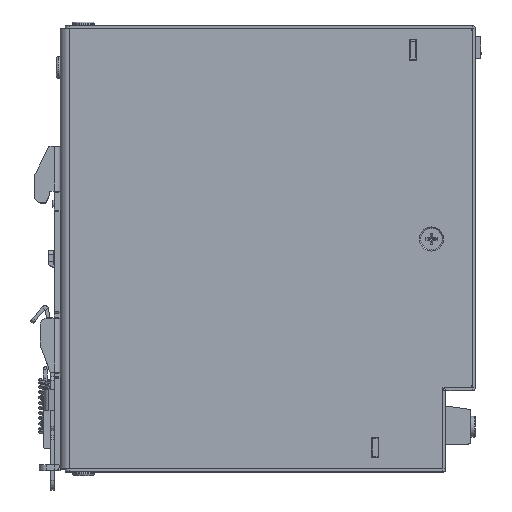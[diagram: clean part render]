
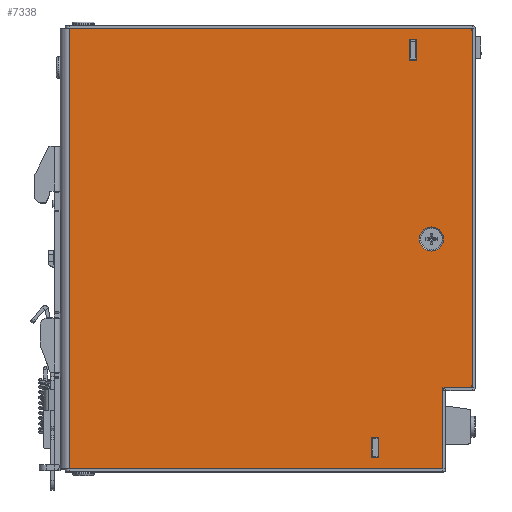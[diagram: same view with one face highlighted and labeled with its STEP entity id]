
A CAD part, top view. The second image highlights one B-rep face of the part: STEP entity #7338.
In plain terms, the highlighted planar face has unit normal (0, 0, 1).
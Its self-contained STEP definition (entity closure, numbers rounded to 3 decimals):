
#2396=DIRECTION('',(0.,-1.,0.));
#2397=VECTOR('',#2396,122.4);
#2398=CARTESIAN_POINT('',(1.,61.2,20.));
#2399=LINE('',#2398,#2397);
#2414=DIRECTION('',(0.,1.,0.));
#2415=VECTOR('',#2414,5.6);
#2416=CARTESIAN_POINT('',(85.1,-58.,20.));
#2417=LINE('',#2416,#2415);
#2418=DIRECTION('',(-1.,0.,0.));
#2419=VECTOR('',#2418,2.);
#2420=CARTESIAN_POINT('',(87.1,-58.,20.));
#2421=LINE('',#2420,#2419);
#2422=DIRECTION('',(0.,-1.,0.));
#2423=VECTOR('',#2422,5.6);
#2424=CARTESIAN_POINT('',(87.1,-52.4,20.));
#2425=LINE('',#2424,#2423);
#2426=DIRECTION('',(1.,0.,0.));
#2427=VECTOR('',#2426,2.);
#2428=CARTESIAN_POINT('',(85.1,-52.4,20.));
#2429=LINE('',#2428,#2427);
#2430=DIRECTION('',(0.,-1.,0.));
#2431=VECTOR('',#2430,5.6);
#2432=CARTESIAN_POINT('',(97.6,58.,20.));
#2433=LINE('',#2432,#2431);
#2434=DIRECTION('',(1.,0.,0.));
#2435=VECTOR('',#2434,2.);
#2436=CARTESIAN_POINT('',(95.6,58.,20.));
#2437=LINE('',#2436,#2435);
#2438=DIRECTION('',(0.,1.,0.));
#2439=VECTOR('',#2438,5.6);
#2440=CARTESIAN_POINT('',(95.6,52.4,20.));
#2441=LINE('',#2440,#2439);
#2442=DIRECTION('',(-1.,0.,0.));
#2443=VECTOR('',#2442,2.);
#2444=CARTESIAN_POINT('',(97.6,52.4,20.));
#2445=LINE('',#2444,#2443);
#2446=CARTESIAN_POINT('',(101.7,2.7,20.));
#2447=DIRECTION('',(0.,0.,1.));
#2448=DIRECTION('',(-1.,0.,0.));
#2449=AXIS2_PLACEMENT_3D('',#2446,#2447,#2448);
#2451=CARTESIAN_POINT('',(101.7,2.7,20.));
#2452=DIRECTION('',(0.,0.,1.));
#2453=DIRECTION('',(1.,0.,0.));
#2454=AXIS2_PLACEMENT_3D('',#2451,#2452,#2453);
#2456=CARTESIAN_POINT('',(112.1,60.2,20.));
#2457=DIRECTION('',(0.,0.,1.));
#2458=DIRECTION('',(1.,0.,0.));
#2459=AXIS2_PLACEMENT_3D('',#2456,#2457,#2458);
#2461=DIRECTION('',(0.,1.,0.));
#2462=VECTOR('',#2461,97.8);
#2463=CARTESIAN_POINT('',(113.1,-37.6,20.));
#2464=LINE('',#2463,#2462);
#2465=CARTESIAN_POINT('',(112.1,-37.6,20.));
#2466=DIRECTION('',(0.,0.,1.));
#2467=DIRECTION('',(0.,-1.,0.));
#2468=AXIS2_PLACEMENT_3D('',#2465,#2466,#2467);
#2470=DIRECTION('',(-1.,0.,0.));
#2471=VECTOR('',#2470,7.2);
#2472=CARTESIAN_POINT('',(112.1,-38.6,20.));
#2473=LINE('',#2472,#2471);
#2474=DIRECTION('',(0.,1.,0.));
#2475=VECTOR('',#2474,21.6);
#2476=CARTESIAN_POINT('',(104.9,-60.2,20.));
#2477=LINE('',#2476,#2475);
#2478=CARTESIAN_POINT('',(103.9,-60.2,20.));
#2479=DIRECTION('',(0.,0.,1.));
#2480=DIRECTION('',(0.,-1.,0.));
#2481=AXIS2_PLACEMENT_3D('',#2478,#2479,#2480);
#2483=DIRECTION('',(1.,0.,0.));
#2484=VECTOR('',#2483,102.9);
#2485=CARTESIAN_POINT('',(1.,-61.2,20.));
#2486=LINE('',#2485,#2484);
#2487=DIRECTION('',(-1.,0.,0.));
#2488=VECTOR('',#2487,111.1);
#2489=CARTESIAN_POINT('',(112.1,61.2,20.));
#2490=LINE('',#2489,#2488);
#3046=CARTESIAN_POINT('',(1.,61.2,20.));
#3047=CARTESIAN_POINT('',(1.,-61.2,20.));
#3048=VERTEX_POINT('',#3046);
#3049=VERTEX_POINT('',#3047);
#3355=CARTESIAN_POINT('',(104.9,-38.6,20.));
#3357=VERTEX_POINT('',#3355);
#3370=CARTESIAN_POINT('',(97.6,58.,20.));
#3371=CARTESIAN_POINT('',(97.6,52.4,20.));
#3372=VERTEX_POINT('',#3370);
#3373=VERTEX_POINT('',#3371);
#3374=CARTESIAN_POINT('',(95.6,52.4,20.));
#3375=VERTEX_POINT('',#3374);
#3376=CARTESIAN_POINT('',(95.6,58.,20.));
#3377=VERTEX_POINT('',#3376);
#3446=CARTESIAN_POINT('',(98.35,2.7,20.));
#3447=CARTESIAN_POINT('',(105.05,2.7,20.));
#3448=VERTEX_POINT('',#3446);
#3449=VERTEX_POINT('',#3447);
#3678=CARTESIAN_POINT('',(113.1,60.2,20.));
#3679=CARTESIAN_POINT('',(112.1,61.2,20.));
#3680=VERTEX_POINT('',#3678);
#3681=VERTEX_POINT('',#3679);
#3696=CARTESIAN_POINT('',(113.1,-37.6,20.));
#3697=VERTEX_POINT('',#3696);
#3704=CARTESIAN_POINT('',(112.1,-38.6,20.));
#3705=VERTEX_POINT('',#3704);
#3714=CARTESIAN_POINT('',(103.9,-61.2,20.));
#3715=VERTEX_POINT('',#3714);
#3716=CARTESIAN_POINT('',(104.9,-60.2,20.));
#3717=VERTEX_POINT('',#3716);
#3774=CARTESIAN_POINT('',(85.1,-58.,20.));
#3775=CARTESIAN_POINT('',(85.1,-52.4,20.));
#3776=VERTEX_POINT('',#3774);
#3777=VERTEX_POINT('',#3775);
#3778=CARTESIAN_POINT('',(87.1,-52.4,20.));
#3779=VERTEX_POINT('',#3778);
#3780=CARTESIAN_POINT('',(87.1,-58.,20.));
#3781=VERTEX_POINT('',#3780);
#7288=CARTESIAN_POINT('',(-1.5,-61.2,20.));
#7289=DIRECTION('',(0.,0.,1.));
#7290=DIRECTION('',(0.,-1.,0.));
#7291=AXIS2_PLACEMENT_3D('',#7288,#7289,#7290);
#7292=PLANE('',#7291);
#7294=ORIENTED_EDGE('',*,*,#7293,.F.);
#7296=ORIENTED_EDGE('',*,*,#7295,.F.);
#7298=ORIENTED_EDGE('',*,*,#7297,.F.);
#7300=ORIENTED_EDGE('',*,*,#7299,.T.);
#7302=ORIENTED_EDGE('',*,*,#7301,.F.);
#7304=ORIENTED_EDGE('',*,*,#7303,.F.);
#7306=ORIENTED_EDGE('',*,*,#7305,.F.);
#7307=ORIENTED_EDGE('',*,*,#7279,.F.);
#7309=ORIENTED_EDGE('',*,*,#7308,.F.);
#7310=EDGE_LOOP('',(#7294,#7296,#7298,#7300,#7302,#7304,#7306,#7307,#7309));
#7311=FACE_OUTER_BOUND('',#7310,.F.);
#7313=ORIENTED_EDGE('',*,*,#7312,.F.);
#7315=ORIENTED_EDGE('',*,*,#7314,.F.);
#7317=ORIENTED_EDGE('',*,*,#7316,.F.);
#7319=ORIENTED_EDGE('',*,*,#7318,.F.);
#7320=EDGE_LOOP('',(#7313,#7315,#7317,#7319));
#7321=FACE_BOUND('',#7320,.F.);
#7323=ORIENTED_EDGE('',*,*,#7322,.T.);
#7325=ORIENTED_EDGE('',*,*,#7324,.T.);
#7326=EDGE_LOOP('',(#7323,#7325));
#7327=FACE_BOUND('',#7326,.F.);
#7329=ORIENTED_EDGE('',*,*,#7328,.F.);
#7331=ORIENTED_EDGE('',*,*,#7330,.F.);
#7333=ORIENTED_EDGE('',*,*,#7332,.F.);
#7335=ORIENTED_EDGE('',*,*,#7334,.F.);
#7336=EDGE_LOOP('',(#7329,#7331,#7333,#7335));
#7337=FACE_BOUND('',#7336,.F.);
#2450=CIRCLE('',#2449,3.35);
#2455=CIRCLE('',#2454,3.35);
#2460=CIRCLE('',#2459,1.);
#2469=CIRCLE('',#2468,1.);
#2482=CIRCLE('',#2481,1.);
#7279=EDGE_CURVE('',#3048,#3049,#2399,.T.);
#7293=EDGE_CURVE('',#3680,#3681,#2460,.T.);
#7295=EDGE_CURVE('',#3697,#3680,#2464,.T.);
#7297=EDGE_CURVE('',#3705,#3697,#2469,.T.);
#7299=EDGE_CURVE('',#3705,#3357,#2473,.T.);
#7301=EDGE_CURVE('',#3717,#3357,#2477,.T.);
#7303=EDGE_CURVE('',#3715,#3717,#2482,.T.);
#7305=EDGE_CURVE('',#3049,#3715,#2486,.T.);
#7308=EDGE_CURVE('',#3681,#3048,#2490,.T.);
#7312=EDGE_CURVE('',#3372,#3373,#2433,.T.);
#7314=EDGE_CURVE('',#3377,#3372,#2437,.T.);
#7316=EDGE_CURVE('',#3375,#3377,#2441,.T.);
#7318=EDGE_CURVE('',#3373,#3375,#2445,.T.);
#7322=EDGE_CURVE('',#3448,#3449,#2450,.T.);
#7324=EDGE_CURVE('',#3449,#3448,#2455,.T.);
#7328=EDGE_CURVE('',#3776,#3777,#2417,.T.);
#7330=EDGE_CURVE('',#3781,#3776,#2421,.T.);
#7332=EDGE_CURVE('',#3779,#3781,#2425,.T.);
#7334=EDGE_CURVE('',#3777,#3779,#2429,.T.);
#7338=ADVANCED_FACE('',(#7311,#7321,#7327,#7337),#7292,.T.);
